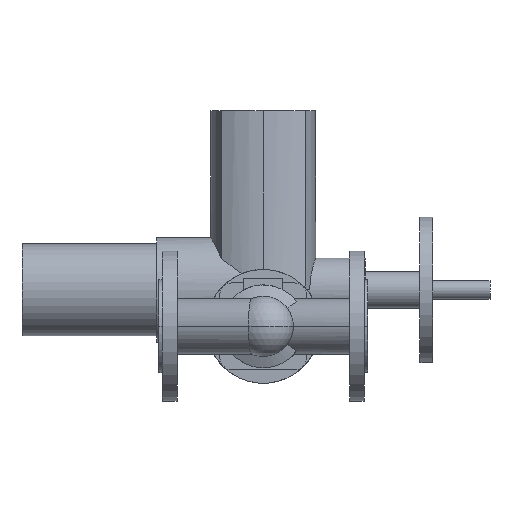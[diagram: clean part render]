
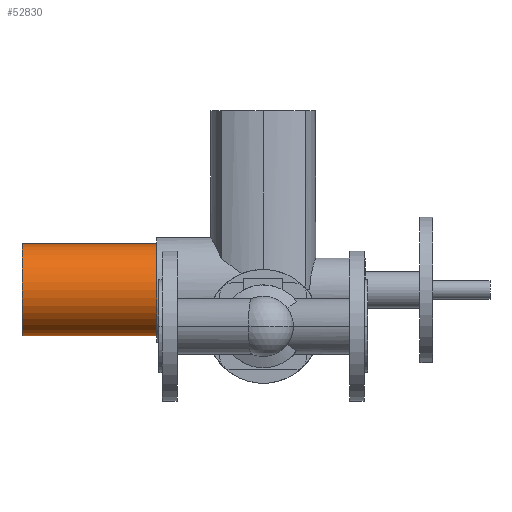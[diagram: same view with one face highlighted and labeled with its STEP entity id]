
A CAD part, front view. The second image highlights one B-rep face of the part: STEP entity #52830.
In plain terms, the highlighted cylindrical face has radius 50.5 mm (diameter 101 mm), a partial arc.
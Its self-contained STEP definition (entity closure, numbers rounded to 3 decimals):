
#52280=CARTESIAN_POINT('',(-76.,587.,40.));
#52290=DIRECTION('',(1.,0.,0.));
#52300=DIRECTION('',(0.,0.,-1.));
#52310=AXIS2_PLACEMENT_3D('',#52280,#52290,#52300);
#52320=CYLINDRICAL_SURFACE('',#52310,50.5);
#52330=CARTESIAN_POINT('',(-76.,587.,-10.5));
#52340=DIRECTION('',(1.,0.,0.));
#52350=VECTOR('',#52340,1.);
#52360=LINE('',#52330,#52350);
#52370=CARTESIAN_POINT('',(-150.,587.,-10.5));
#52380=VERTEX_POINT('',#52370);
#52390=CARTESIAN_POINT('',(-2.,587.,-10.5));
#52400=VERTEX_POINT('',#52390);
#52410=SURFACE_CURVE('',#52360,(#52320,#52320),.CURVE_3D.);
#52420=EDGE_CURVE('',#52380,#52400,#52410,.T.);
#52430=ORIENTED_EDGE('',*,*,#52420,.T.);
#52440=CARTESIAN_POINT('',(-150.,587.,40.));
#52450=DIRECTION('',(-1.,0.,0.));
#52460=DIRECTION('',(0.,0.,-1.));
#52470=AXIS2_PLACEMENT_3D('',#52440,#52450,#52460);
#52480=CIRCLE('',#52470,50.5);
#52490=CARTESIAN_POINT('',(-150.,587.,90.5));
#52500=VERTEX_POINT('',#52490);
#52510=CARTESIAN_POINT('',(-150.,587.,14.75));
#52520=DIRECTION('',(-1.,0.,0.));
#52530=DIRECTION('',(0.,0.,-1.));
#52540=AXIS2_PLACEMENT_3D('',#52510,#52520,#52530);
#52550=PLANE('',#52540);
#52560=SURFACE_CURVE('',#52480,(#52320,#52550),.CURVE_3D.);
#52570=EDGE_CURVE('',#52380,#52500,#52560,.T.);
#52580=ORIENTED_EDGE('',*,*,#52570,.F.);
#52590=CARTESIAN_POINT('',(-76.,587.,90.5));
#52600=DIRECTION('',(1.,0.,0.));
#52610=VECTOR('',#52600,1.);
#52620=LINE('',#52590,#52610);
#52630=CARTESIAN_POINT('',(-2.,587.,90.5));
#52640=VERTEX_POINT('',#52630);
#52650=SURFACE_CURVE('',#52620,(#52320,#52320),.CURVE_3D.);
#52660=EDGE_CURVE('',#52500,#52640,#52650,.T.);
#52670=ORIENTED_EDGE('',*,*,#52660,.F.);
#52680=CARTESIAN_POINT('',(-2.,587.,40.));
#52690=DIRECTION('',(-1.,0.,0.));
#52700=DIRECTION('',(0.,0.,-1.));
#52710=AXIS2_PLACEMENT_3D('',#52680,#52690,#52700);
#52720=CIRCLE('',#52710,50.5);
#52730=CARTESIAN_POINT('',(-2.,587.,-14.));
#52740=DIRECTION('',(-1.,0.,0.));
#52750=DIRECTION('',(0.,0.,-1.));
#52760=AXIS2_PLACEMENT_3D('',#52730,#52740,#52750);
#52770=PLANE('',#52760);
#52780=SURFACE_CURVE('',#52720,(#52320,#52770),.CURVE_3D.);
#52790=EDGE_CURVE('',#52400,#52640,#52780,.T.);
#52800=ORIENTED_EDGE('',*,*,#52790,.T.);
#52810=EDGE_LOOP('',(#52800,#52670,#52580,#52430));
#52820=FACE_OUTER_BOUND('',#52810,.T.);
#52830=ADVANCED_FACE('',(#52820),#52320,.T.);
